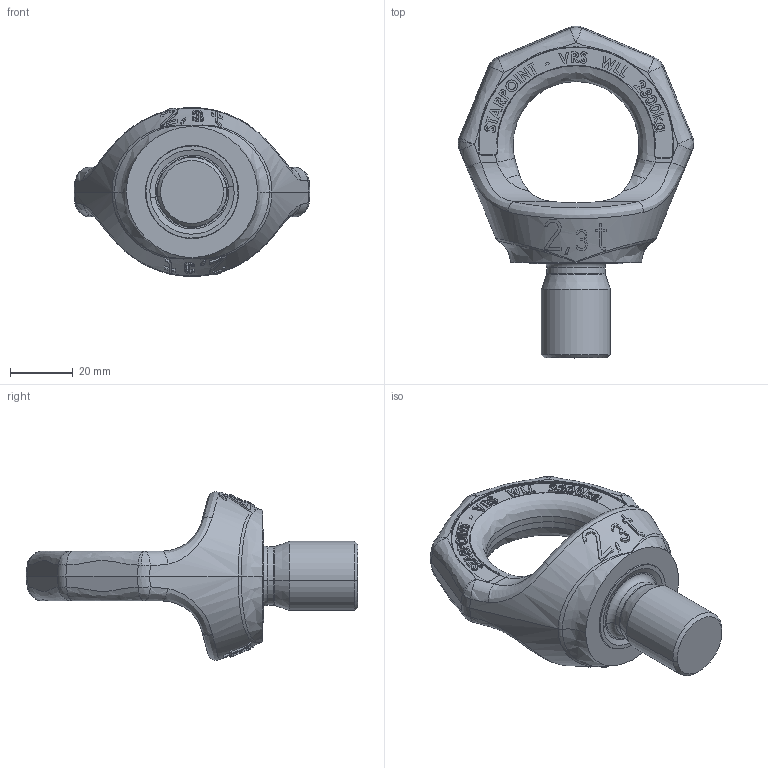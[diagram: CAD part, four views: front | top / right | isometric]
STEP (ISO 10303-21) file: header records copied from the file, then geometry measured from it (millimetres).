
FILE_DESCRIPTION (( 'STEP AP214' ), '1' );
FILE_NAME ('VRS M22.stp', '2025-02-28T19:39:41', ( '' ), ( '' ), 'SwSTEP 2.0', 'SolidWorks 2024', '' );
FILE_SCHEMA (( 'AUTOMOTIVE_DESIGN' ));
Length unit declared in the file: millimetre
Products named in the file (3): 03 - PARAFUSO M22 - VRS_REAL - PAP M16x24; VRS M22; 4RAD 5007-02
Assembly tree (2 placements, depth 2):
  VRS M22
    4RAD 5007-02
    03 - PARAFUSO M22 - VRS_REAL - PAP M16x24
Bounding box: 74.97 x 105.48 x 53.67 mm (x, y, z)
Volume: 72258.4 mm3; surface area: 21163.6 mm2
Topology: 2 solids, 2 shells, 1081 faces, 2905 edges, 1894 vertices
Faces by surface type: plane 678, bspline 297, cylinder 57, cone 35, torus 12, sphere 2
Entity records: 51589 total; most frequent: CARTESIAN_POINT 27425, ORIENTED_EDGE 5806, DIRECTION 3680, EDGE_CURVE 2903, VERTEX_POINT 1894, VECTOR 1644, LINE 1644, EDGE_LOOP 1153
